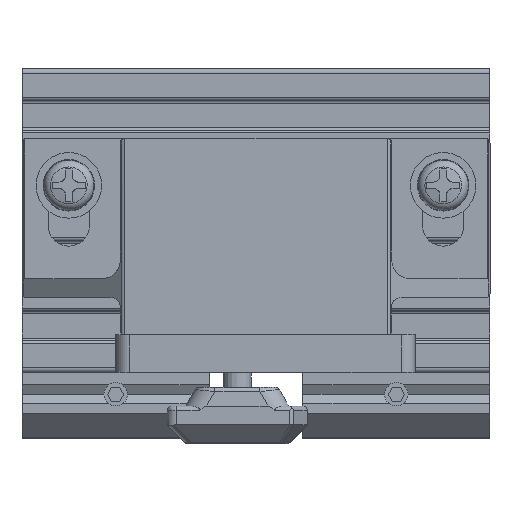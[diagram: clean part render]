
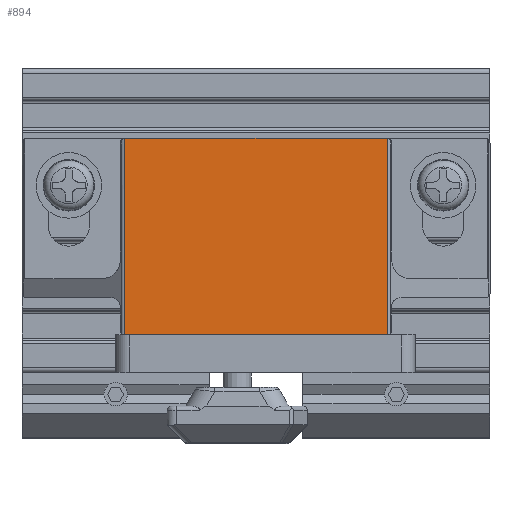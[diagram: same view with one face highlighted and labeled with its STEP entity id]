
A CAD part, top view. The second image highlights one B-rep face of the part: STEP entity #894.
In plain terms, the highlighted planar face has unit normal (0, 0, 1).
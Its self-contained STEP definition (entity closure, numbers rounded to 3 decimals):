
#894=ADVANCED_FACE('',(#1886),#1887,.T.);
#1886=FACE_OUTER_BOUND('',#3191,.T.);
#1887=PLANE('',#3192);
#3191=EDGE_LOOP('',(#4976,#4977,#4978,#4979));
#3192=AXIS2_PLACEMENT_3D('',#4980,#4981,#4982);
#4976=ORIENTED_EDGE('',*,*,#8464,.F.);
#4977=ORIENTED_EDGE('',*,*,#8403,.T.);
#4978=ORIENTED_EDGE('',*,*,#8365,.T.);
#4979=ORIENTED_EDGE('',*,*,#8357,.T.);
#4980=CARTESIAN_POINT('',(49.5,20.5,13.0));
#4981=DIRECTION('',(0.0,0.0,1.0));
#4982=DIRECTION('',(1.0,0.0,0.0));
#8357=EDGE_CURVE('',#9786,#9784,#9787,.T.);
#8365=EDGE_CURVE('',#9800,#9786,#9801,.T.);
#8403=EDGE_CURVE('',#9848,#9800,#9859,.T.);
#8464=EDGE_CURVE('',#9848,#9784,#9949,.T.);
#9784=VERTEX_POINT('',#11896);
#9786=VERTEX_POINT('',#11899);
#9787=LINE('',#11900,#11901);
#9800=VERTEX_POINT('',#11919);
#9801=LINE('',#11920,#11921);
#9848=VERTEX_POINT('',#11981);
#9859=LINE('',#11995,#11996);
#9949=LINE('',#12114,#12115);
#11896=CARTESIAN_POINT('',(11.,21.0,13.0));
#11899=CARTESIAN_POINT('',(39.,21.0,13.0));
#11900=CARTESIAN_POINT('',(49.5,21.0,13.0));
#11901=VECTOR('',#14823,1.0);
#11919=CARTESIAN_POINT('',(39.0,0.,13.0));
#11920=CARTESIAN_POINT('',(39.0,0.,13.0));
#11921=VECTOR('',#14832,1.0);
#11981=CARTESIAN_POINT('',(11.,0.,13.0));
#11995=CARTESIAN_POINT('',(11.,0.,13.0));
#11996=VECTOR('',#14888,1.0);
#12114=CARTESIAN_POINT('',(11.0,0.,13.0));
#12115=VECTOR('',#14965,1.0);
#14823=DIRECTION('',(-1.0,0.0,0.0));
#14832=DIRECTION('',(0.0,1.0,0.0));
#14888=DIRECTION('',(1.0,0.0,0.0));
#14965=DIRECTION('',(0.0,1.0,0.0));
